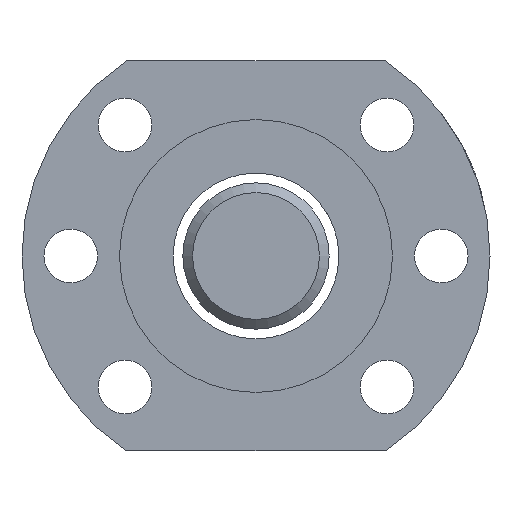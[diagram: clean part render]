
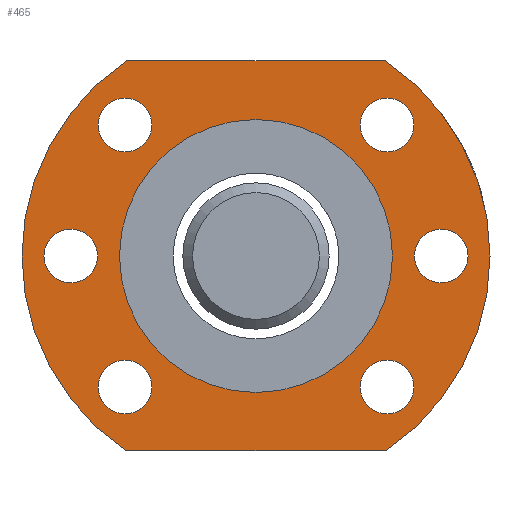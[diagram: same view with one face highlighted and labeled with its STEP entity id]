
A CAD part, left-side view. The second image highlights one B-rep face of the part: STEP entity #465.
In plain terms, the highlighted planar face has unit normal (-1, 0, 0).
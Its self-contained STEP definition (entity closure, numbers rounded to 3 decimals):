
#59=PLANE('',#541);
#74=CIRCLE('',#512,24.);
#80=CIRCLE('',#520,2.75);
#82=CIRCLE('',#523,2.75);
#84=CIRCLE('',#526,2.75);
#86=CIRCLE('',#529,2.75);
#88=CIRCLE('',#532,2.75);
#90=CIRCLE('',#535,2.75);
#91=CIRCLE('',#539,24.);
#93=CIRCLE('',#542,14.);
#140=ORIENTED_EDGE('',*,*,#236,.F.);
#141=ORIENTED_EDGE('',*,*,#206,.T.);
#142=ORIENTED_EDGE('',*,*,#228,.T.);
#143=ORIENTED_EDGE('',*,*,#234,.T.);
#144=ORIENTED_EDGE('',*,*,#231,.T.);
#145=ORIENTED_EDGE('',*,*,#227,.F.);
#146=ORIENTED_EDGE('',*,*,#225,.F.);
#147=ORIENTED_EDGE('',*,*,#217,.T.);
#148=ORIENTED_EDGE('',*,*,#219,.T.);
#149=ORIENTED_EDGE('',*,*,#223,.F.);
#150=ORIENTED_EDGE('',*,*,#221,.T.);
#206=EDGE_CURVE('',#257,#256,#74,.T.);
#217=EDGE_CURVE('',#267,#267,#80,.T.);
#219=EDGE_CURVE('',#269,#269,#82,.T.);
#221=EDGE_CURVE('',#271,#271,#84,.T.);
#223=EDGE_CURVE('',#273,#273,#86,.T.);
#225=EDGE_CURVE('',#275,#275,#88,.T.);
#227=EDGE_CURVE('',#277,#277,#90,.T.);
#228=EDGE_CURVE('',#256,#278,#298,.T.);
#231=EDGE_CURVE('',#280,#257,#301,.T.);
#234=EDGE_CURVE('',#278,#280,#91,.T.);
#236=EDGE_CURVE('',#282,#282,#93,.T.);
#256=VERTEX_POINT('',#712);
#257=VERTEX_POINT('',#714);
#267=VERTEX_POINT('',#755);
#269=VERTEX_POINT('',#760);
#271=VERTEX_POINT('',#765);
#273=VERTEX_POINT('',#770);
#275=VERTEX_POINT('',#775);
#277=VERTEX_POINT('',#780);
#278=VERTEX_POINT('',#783);
#280=VERTEX_POINT('',#789);
#282=VERTEX_POINT('',#798);
#298=LINE('',#782,#306);
#301=LINE('',#788,#309);
#306=VECTOR('',#630,1000.);
#309=VECTOR('',#635,1000.);
#331=EDGE_LOOP('',(#140));
#332=EDGE_LOOP('',(#141,#142,#143,#144));
#333=EDGE_LOOP('',(#145));
#334=EDGE_LOOP('',(#146));
#335=EDGE_LOOP('',(#147));
#336=EDGE_LOOP('',(#148));
#337=EDGE_LOOP('',(#149));
#338=EDGE_LOOP('',(#150));
#394=FACE_BOUND('',#331,.T.);
#395=FACE_BOUND('',#332,.T.);
#396=FACE_BOUND('',#333,.T.);
#397=FACE_BOUND('',#334,.T.);
#398=FACE_BOUND('',#335,.T.);
#399=FACE_BOUND('',#336,.T.);
#400=FACE_BOUND('',#337,.T.);
#401=FACE_BOUND('',#338,.T.);
#465=ADVANCED_FACE('',(#394,#395,#396,#397,#398,#399,#400,#401),#59,.T.);
#512=AXIS2_PLACEMENT_3D('',#713,#579,#580);
#520=AXIS2_PLACEMENT_3D('',#754,#596,#597);
#523=AXIS2_PLACEMENT_3D('',#759,#602,#603);
#526=AXIS2_PLACEMENT_3D('',#764,#608,#609);
#529=AXIS2_PLACEMENT_3D('',#769,#614,#615);
#532=AXIS2_PLACEMENT_3D('',#774,#620,#621);
#535=AXIS2_PLACEMENT_3D('',#779,#626,#627);
#539=AXIS2_PLACEMENT_3D('',#794,#640,#641);
#541=AXIS2_PLACEMENT_3D('',#796,#644,#645);
#542=AXIS2_PLACEMENT_3D('',#797,#646,#647);
#579=DIRECTION('',(-1.,0.,0.));
#580=DIRECTION('',(0.,0.,-1.));
#596=DIRECTION('',(1.,0.,0.));
#597=DIRECTION('',(0.,0.,1.));
#602=DIRECTION('',(1.,0.,0.));
#603=DIRECTION('',(0.,0.,1.));
#608=DIRECTION('',(1.,0.,0.));
#609=DIRECTION('',(0.,0.,1.));
#614=DIRECTION('',(-1.,0.,0.));
#615=DIRECTION('',(0.,0.,1.));
#620=DIRECTION('',(-1.,0.,0.));
#621=DIRECTION('',(0.,0.,1.));
#626=DIRECTION('',(-1.,0.,0.));
#627=DIRECTION('',(0.,0.,1.));
#630=DIRECTION('',(0.,1.,0.));
#635=DIRECTION('',(0.,-1.,0.));
#640=DIRECTION('',(-1.,0.,0.));
#641=DIRECTION('',(0.,0.,-1.));
#644=DIRECTION('',(-1.,0.,0.));
#645=DIRECTION('',(0.,0.,-1.));
#646=DIRECTION('',(-1.,0.,0.));
#647=DIRECTION('',(0.,0.,-1.));
#712=CARTESIAN_POINT('',(-1.649,-49.205,20.));
#713=CARTESIAN_POINT('',(-1.649,-35.938,0.));
#714=CARTESIAN_POINT('',(-1.649,-49.205,-20.));
#754=CARTESIAN_POINT('',(-1.649,-49.373,13.435));
#755=CARTESIAN_POINT('',(-1.649,-49.373,16.185));
#759=CARTESIAN_POINT('',(-1.649,-54.938,0.));
#760=CARTESIAN_POINT('',(-1.649,-54.938,2.75));
#764=CARTESIAN_POINT('',(-1.649,-49.373,-13.435));
#765=CARTESIAN_POINT('',(-1.649,-49.373,-10.685));
#769=CARTESIAN_POINT('',(-1.649,-22.503,-13.435));
#770=CARTESIAN_POINT('',(-1.649,-22.503,-10.685));
#774=CARTESIAN_POINT('',(-1.649,-22.503,13.435));
#775=CARTESIAN_POINT('',(-1.649,-22.503,16.185));
#779=CARTESIAN_POINT('',(-1.649,-16.938,0.));
#780=CARTESIAN_POINT('',(-1.649,-16.938,2.75));
#782=CARTESIAN_POINT('',(-1.649,-49.205,20.));
#783=CARTESIAN_POINT('',(-1.649,-22.672,20.));
#788=CARTESIAN_POINT('',(-1.649,-22.672,-20.));
#789=CARTESIAN_POINT('',(-1.649,-22.672,-20.));
#794=CARTESIAN_POINT('',(-1.649,-35.938,0.));
#796=CARTESIAN_POINT('',(-1.649,-35.938,0.));
#797=CARTESIAN_POINT('',(-1.649,-35.938,0.));
#798=CARTESIAN_POINT('',(-1.649,-35.938,-14.));
